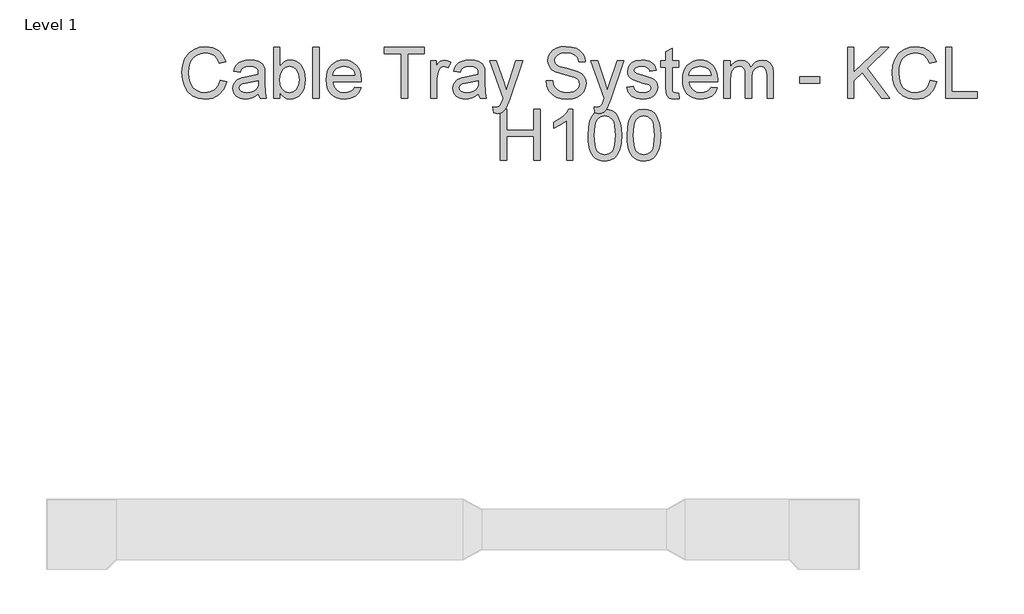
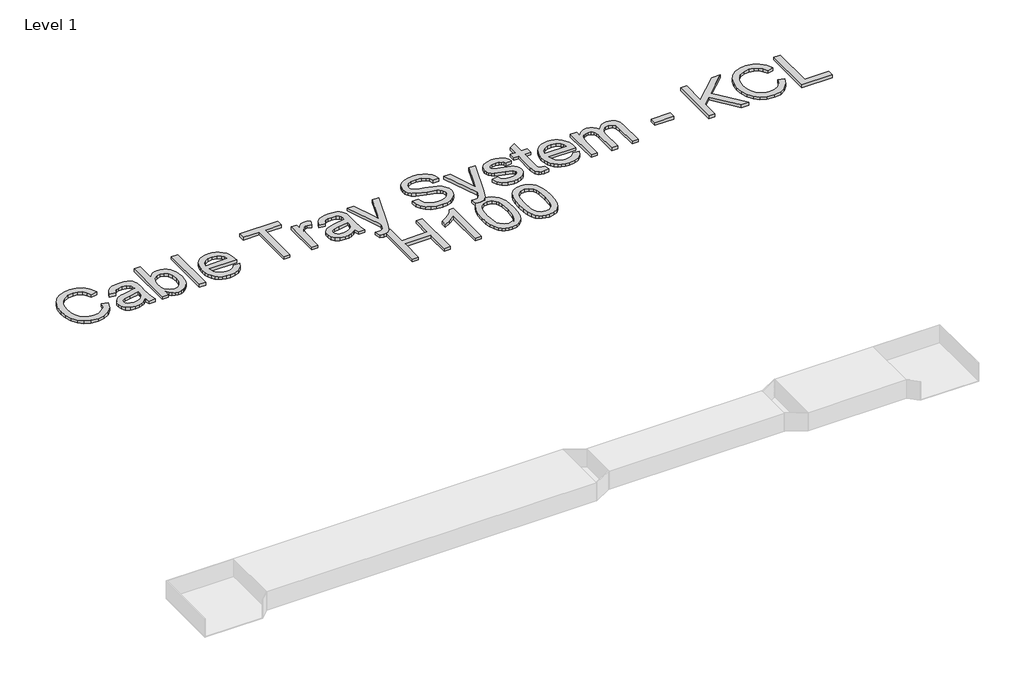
# One storey, part 96 of 106: 1 proxy.
"""IFC4 building model written with IfcOpenShell, lengths in millimetres."""

from ifc_helpers import new_model, si_unit, origin, origin_with_axes, place, context, project, spatial, polyline, outline, extrude, element, save

model = new_model("IFC4")

# Units and contexts
model_context = context("Model", 3, world=origin())
ifc_project = project(units=[si_unit("LENGTHUNIT", "METRE", prefix="MILLI")], contexts=[model_context])

# Site, building, storey
site = spatial("IfcSite", under=ifc_project)
building = spatial("IfcBuilding", under=site)
storey = spatial("IfcBuildingStorey", under=building, Name="Level 1", Elevation=0.0)

# Proxy
placement = place(None, origin())
element("IfcBuildingElementProxy", 1, Name="250mm Arial 3", ObjectType="250mm Arial 3", at=placement, inside=storey, context=model_context, shape_type="SweptSolid", body=[
    extrude(outline(polyline([(157661.590676, 48792.4106539), (157692.9832729, 48784.31725), (157678.4979193, 48747.7359841), (157655.7658777, 48721.01089), (157625.9061224, 48704.6631338), (157590.0376279, 48699.2138818), (157553.6249746, 48703.3372258), (157524.7079169, 48715.7072579), (157502.5430267, 48735.8947824), (157486.3868758, 48763.4706036), (157476.5230398, 48795.8902044), (157473.2350944, 48830.6090677), (157476.9522354, 48867.2286547), (157488.1036584, 48898.8511778), (157506.1068835, 48924.472626), (157530.379431, 48943.0889877), (157559.1661971, 48954.4243517), (157590.7120782, 48958.2028064), (157625.1320374, 48953.3130415), (157653.5892426, 48938.643747), (157675.1946456, 48915.0992993), (157689.0591983, 48883.584075), (157657.6666013, 48876.1038078), (157646.7834256, 48898.9967978), (157631.9148617, 48914.7007605), (157612.8769684, 48923.7828472), (157589.4858049, 48926.8102095), (157562.5231203, 48923.4532863), (157540.3735585, 48913.3825166), (157523.5659499, 48897.6555613), (157512.6291247, 48877.3300811), (157506.6280497, 48854.3527848), (157504.6276913, 48830.6703814), (157506.9959317, 48801.6690174), (157514.1006527, 48776.5917281), (157526.2101017, 48756.3965394), (157543.592526, 48742.0414774), (157564.4315082, 48733.4652284), (157586.9106309, 48730.6064787), (157613.1145589, 48734.4998965), (157634.9498881, 48746.1801498), (157651.4356, 48765.5246114), (157661.590676, 48792.4106539)])), origin_with_axes(), (0.0, 0.0, 1.0), 15.0),
    extrude(outline(polyline([(157849.9462575, 48726.6824041), (157834.947402, 48713.8218627), (157819.5040224, 48705.406562), (157803.2635651, 48700.7620518), (157785.8734767, 48699.2138818), (157759.6388919, 48702.938687), (157740.2867661, 48714.1131026), (157728.3535939, 48731.0816596), (157724.3758698, 48752.1888891), (157725.8780546, 48765.2027147), (157730.3846091, 48777.0209238), (157746.172878, 48795.0471415), (157768.1538272, 48805.3478374), (157795.3157812, 48810.0689897), (157849.7623165, 48820.8601949), (157849.9462575, 48827.8499528), (157847.7849508, 48841.8601254), (157841.3010306, 48851.0265185), (157826.8003486, 48857.8323354), (157806.5974957, 48860.100941), (157787.8968276, 48858.591092), (157774.8370168, 48854.0615449), (157765.9312068, 48845.6845653), (157759.6925413, 48832.6324187), (157728.2999444, 48836.5564933), (157733.7491965, 48853.7243198), (157741.8809214, 48867.2133262), (157753.4538758, 48877.5293505), (157769.2268164, 48885.1782303), (157788.5176285, 48889.914711), (157810.6441977, 48891.4935379), (157831.8663903, 48890.098652), (157848.6893273, 48885.9139943), (157861.373592, 48879.6216794), (157870.1797672, 48871.9038217), (157879.8060128, 48850.5973228), (157881.3388544, 48823.1288005), (157881.3388544, 48784.0719953), (157882.9330097, 48729.5334895), (157889.1870036, 48703.1379564), (157857.7944067, 48703.1379564), (157849.9462575, 48726.6824041)]), holes=[polyline([(157849.9462575, 48789.4675979), (157799.3011695, 48779.8413524), (157772.2924997, 48774.7523181), (157760.0604233, 48766.4749732), (157755.7684667, 48754.3961811), (157758.1060502, 48745.0611754), (157765.1188008, 48737.4122956), (157776.6534342, 48732.3079329), (157792.5566662, 48730.6064787), (157809.4179244, 48732.4842097), (157824.3171452, 48738.1174028), (157836.3959373, 48746.4177403), (157844.7959096, 48756.2969047), (157848.5207148, 48766.4749732), (157849.7623165, 48780.5771164), (157849.9462575, 48789.4675979)])]), origin_with_axes(), (0.0, 0.0, 1.0), 15.0),
    extrude(outline(polyline([(157955.8962721, 48703.1379564), (157924.5036752, 48703.1379564), (157924.5036752, 48954.2787318), (157955.8962721, 48954.2787318), (157955.8962721, 48861.1432733), (157966.2199606, 48874.4215141), (157977.8772213, 48883.9059718), (157990.8680543, 48889.5966464), (158005.1924595, 48891.4935379), (158021.3639388, 48889.7844195), (158036.64637, 48884.6570642), (158050.1660334, 48876.4333687), (158061.0492091, 48865.4352299), (158076.0404004, 48835.5448178), (158081.4666598, 48798.1128248), (158075.8487951, 48756.2049342), (158068.8264644, 48739.2746982), (158058.9952012, 48725.0269351), (158047.1942366, 48713.7337243), (158034.2628013, 48705.6671451), (158020.2008952, 48700.8271976), (158005.0085185, 48699.2138818), (157990.2127645, 48701.2947143), (157977.0954721, 48707.5372119), (157965.6566413, 48717.9413746), (157955.8962721, 48732.5072023), (157955.8962721, 48703.1379564)]), holes=[polyline([(157955.8962721, 48796.6412968), (157958.0422504, 48770.4603615), (157964.4801853, 48752.7407121), (157980.9275762, 48736.140037), (158002.3107172, 48730.6064787), (158020.4289054, 48734.6838375), (158035.910606, 48746.9159138), (158046.5331987, 48767.2260656), (158050.0740629, 48795.5376509), (158046.6788186, 48824.2631033), (158036.4930859, 48844.3433289), (158021.4942304, 48856.161538), (158003.6596178, 48860.100941), (157985.5414295, 48856.0235822), (157970.0597289, 48843.7915059), (157959.4371363, 48823.8492361), (157955.8962721, 48796.6412968)])]), origin_with_axes(), (0.0, 0.0, 1.0), 15.0),
    extrude(outline(polyline([(158116.7833313, 48703.1379564), (158116.7833313, 48954.2787318), (158148.1759282, 48954.2787318), (158148.1759282, 48703.1379564), (158116.7833313, 48703.1379564)])), origin_with_axes(), (0.0, 0.0, 1.0), 15.0),
    extrude(outline(polyline([(158324.3914039, 48758.075001), (158355.1708642, 48754.1509264), (158344.0807549, 48730.9590323), (158326.3840981, 48713.6225933), (158302.4794326, 48702.8160596), (158272.7652973, 48699.2138818), (158253.2867121, 48700.7678), (158235.9311125, 48705.4295547), (158220.6984986, 48713.1991458), (158207.5888705, 48724.0765733), (158197.046752, 48737.759101), (158189.5166675, 48753.9439928), (158184.9986167, 48772.6312485), (158183.4925998, 48793.8208682), (158185.0139451, 48815.7290074), (158189.5779811, 48835.0389801), (158197.1847078, 48851.7507861), (158207.8341251, 48865.8644256), (158220.9092644, 48877.0771622), (158235.7931568, 48885.0862598), (158252.4858023, 48889.8917184), (158270.987201, 48891.4935379), (158288.8927074, 48889.8955505), (158305.0852634, 48885.1015883), (158319.5648688, 48877.1116512), (158332.3315237, 48865.9257393), (158342.7529308, 48851.8427566), (158350.1967931, 48835.1616074), (158354.6631104, 48815.8822916), (158356.1518828, 48794.0048092), (158355.9679419, 48785.5435233), (158214.8851967, 48785.5435233), (158220.3191203, 48762.0450609), (158232.9420713, 48744.7699355), (158251.1598943, 48734.1473429), (158273.3784339, 48730.6064787), (158290.0864079, 48732.2466193), (158304.1578942, 48737.1670409), (158315.5928929, 48745.6743121), (158324.3914039, 48758.075001)]), holes=[polyline([(158214.8851967, 48816.9361202), (158324.7592859, 48816.9361202), (158320.5133146, 48833.5214669), (158312.1899844, 48845.3856612), (158293.8878552, 48856.4221211), (158270.8645736, 48860.100941), (158249.7036947, 48857.1655493), (158232.2063073, 48848.359374), (158220.0432088, 48834.632777), (158214.8851967, 48816.9361202)])]), origin_with_axes(), (0.0, 0.0, 1.0), 15.0),
    extrude(outline(polyline([(158552.3556136, 48703.1379564), (158552.3556136, 48922.8861348), (158469.9500467, 48922.8861348), (158469.9500467, 48954.2787318), (158666.1537775, 48954.2787318), (158666.1537775, 48922.8861348), (158583.7482105, 48922.8861348), (158583.7482105, 48703.1379564), (158552.3556136, 48703.1379564)])), origin_with_axes(), (0.0, 0.0, 1.0), 15.0),
    extrude(outline(polyline([(158697.5463744, 48703.1379564), (158697.5463744, 48887.5694633), (158725.0148967, 48887.5694633), (158725.0148967, 48860.284882), (158735.1623084, 48876.1038078), (158744.5126424, 48885.423485), (158764.1330155, 48891.4935379), (158779.7680003, 48889.0716481), (158795.6482398, 48881.8059787), (158785.1636029, 48853.6630061), (158763.0906832, 48860.100941), (158753.7173565, 48858.5527709), (158745.3403769, 48853.9082608), (158734.0280056, 48836.7404343), (158728.9389713, 48800.0748621), (158728.9389713, 48703.1379564), (158697.5463744, 48703.1379564)])), origin_with_axes(), (0.0, 0.0, 1.0), 15.0),
    extrude(outline(polyline([(158932.9908513, 48726.6824041), (158917.9919958, 48713.8218627), (158902.5486162, 48705.406562), (158886.3081589, 48700.7620518), (158868.9180705, 48699.2138818), (158842.6834857, 48702.938687), (158823.3313599, 48714.1131026), (158811.3981877, 48731.0816596), (158807.4204636, 48752.1888891), (158808.9226484, 48765.2027147), (158813.4292029, 48777.0209238), (158829.2174718, 48795.0471415), (158851.198421, 48805.3478374), (158878.360375, 48810.0689897), (158932.8069103, 48820.8601949), (158932.9908513, 48827.8499528), (158930.8295446, 48841.8601254), (158924.3456244, 48851.0265185), (158909.8449424, 48857.8323354), (158889.6420895, 48860.100941), (158870.9414214, 48858.591092), (158857.8816106, 48854.0615449), (158848.9758006, 48845.6845653), (158842.7371351, 48832.6324187), (158811.3445382, 48836.5564933), (158816.7937903, 48853.7243198), (158824.9255152, 48867.2133262), (158836.4984696, 48877.5293505), (158852.2714102, 48885.1782303), (158871.5622223, 48889.914711), (158893.6887915, 48891.4935379), (158914.9109841, 48890.098652), (158931.7339211, 48885.9139943), (158944.4181858, 48879.6216794), (158953.224361, 48871.9038217), (158962.8506066, 48850.5973228), (158964.3834482, 48823.1288005), (158964.3834482, 48784.0719953), (158965.9776035, 48729.5334895), (158972.2315974, 48703.1379564), (158940.8390005, 48703.1379564), (158932.9908513, 48726.6824041)]), holes=[polyline([(158932.9908513, 48789.4675979), (158882.3457633, 48779.8413524), (158855.3370935, 48774.7523181), (158843.1050171, 48766.4749732), (158838.8130605, 48754.3961811), (158841.150644, 48745.0611754), (158848.1633946, 48737.4122956), (158859.698028, 48732.3079329), (158875.60126, 48730.6064787), (158892.4625182, 48732.4842097), (158907.361739, 48738.1174028), (158919.4405311, 48746.4177403), (158927.8405034, 48756.2969047), (158931.5653086, 48766.4749732), (158932.8069103, 48780.5771164), (158932.9908513, 48789.4675979)])]), origin_with_axes(), (0.0, 0.0, 1.0), 15.0),
    extrude(outline(polyline([(159007.548269, 48632.5046133), (159003.6241944, 48662.7322506), (159019.5657475, 48659.9731356), (159034.4649683, 48663.4373577), (159043.6007045, 48673.0942601), (159052.1846177, 48696.2095122), (159054.6371644, 48703.8124067), (158987.9278959, 48887.5694633), (159020.9759618, 48887.5694633), (159056.4152607, 48785.1143277), (159068.7393075, 48744.1567989), (159081.0633543, 48780.3931754), (159117.4223582, 48887.5694633), (159150.2251694, 48887.5694633), (159086.0297613, 48698.7233725), (159069.3524442, 48657.7658437), (159060.8145162, 48644.6907044), (159051.1422854, 48635.6316103), (159039.9218846, 48630.3433066), (159026.7394464, 48628.5805387), (159007.548269, 48632.5046133)])), origin_with_axes(), (0.0, 0.0, 1.0), 15.0),
    extrude(outline(polyline([(159266.5371936, 48789.4675979), (159297.9297905, 48789.4675979), (159301.5319684, 48772.0468526), (159308.0465454, 48758.0443442), (159318.2092855, 48746.9312422), (159332.7559527, 48738.1787164), (159350.5369158, 48732.4995381), (159370.4025436, 48730.6064787), (159387.8922667, 48732.0396856), (159403.2053548, 48736.3393065), (159415.6137079, 48743.1451234), (159424.3892263, 48752.0969186), (159429.6085522, 48762.3746218), (159431.3483274, 48773.1581628), (159426.1366658, 48792.7478791), (159418.1965461, 48800.4963936), (159404.7995101, 48807.0033064), (159359.0901722, 48818.990128), (159309.8859553, 48834.4718287), (159294.2586348, 48845.0331076), (159283.1838539, 48857.8323354), (159276.5849706, 48872.5936004), (159274.3853428, 48889.0409913), (159277.1061367, 48907.4274268), (159285.2685185, 48924.5722607), (159298.6578903, 48939.1035995), (159317.0596543, 48949.64955), (159339.1479024, 48956.0644923), (159363.5967266, 48958.2028064), (159390.0842303, 48955.9648576), (159413.260796, 48949.2510112), (159432.2986892, 48938.1992229), (159446.3701756, 48922.9474485), (159455.2759855, 48904.4460498), (159458.8168497, 48883.6453887), (159427.4242528, 48883.6453887), (159421.6607682, 48902.3767136), (159409.6432897, 48915.8963769), (159390.8659795, 48924.0817513), (159364.823, 48926.8102095), (159338.1668837, 48924.1124082), (159319.8800829, 48916.0190043), (159309.3034755, 48904.1088247), (159305.7779397, 48889.9606963), (159308.2764716, 48877.8972325), (159315.7720673, 48868.1943449), (159333.4917167, 48859.5184612), (159367.0302919, 48850.6586365), (159422.5804732, 48834.9010243), (159440.4763994, 48823.5120109), (159452.9613946, 48809.455853), (159460.2960419, 48792.8858348), (159462.7409243, 48773.9552405), (159459.9281599, 48754.6031147), (159451.4898667, 48736.4006201), (159437.7709339, 48720.7349785), (159419.1162511, 48708.9934115), (159396.6831136, 48701.6587642), (159371.6288169, 48699.2138818), (159340.8723492, 48701.8503694), (159315.5574694, 48709.7598323), (159295.3929376, 48722.9729273), (159280.0875137, 48741.5203112), (159270.2619988, 48764.1143971), (159266.5371936, 48789.4675979)])), origin_with_axes(), (0.0, 0.0, 1.0), 15.0),
    extrude(outline(polyline([(159505.9057451, 48632.5046133), (159501.9816705, 48662.7322506), (159517.9232236, 48659.9731356), (159532.8224444, 48663.4373577), (159541.9581806, 48673.0942601), (159550.5420939, 48696.2095122), (159552.9946405, 48703.8124067), (159486.285372, 48887.5694633), (159519.3334379, 48887.5694633), (159554.7727368, 48785.1143277), (159567.0967836, 48744.1567989), (159579.4208305, 48780.3931754), (159615.7798343, 48887.5694633), (159648.5826456, 48887.5694633), (159584.3872374, 48698.7233725), (159567.7099203, 48657.7658437), (159559.1719923, 48644.6907044), (159549.4997615, 48635.6316103), (159538.2793607, 48630.3433066), (159525.0969225, 48628.5805387), (159505.9057451, 48632.5046133)])), origin_with_axes(), (0.0, 0.0, 1.0), 15.0),
    extrude(outline(polyline([(159662.8687297, 48758.075001), (159694.2613266, 48761.9990756), (159699.2124052, 48748.5713828), (159708.7926654, 48738.6998826), (159723.0634212, 48732.6298297), (159742.085986, 48730.6064787), (159760.8786246, 48732.4612171), (159774.0917196, 48738.0254323), (159781.909212, 48746.0881793), (159784.5150428, 48755.4385134), (159781.8938836, 48763.4399468), (159774.0304059, 48769.5406565), (159741.718104, 48778.4924517), (159694.4452676, 48793.851525), (159682.4814386, 48801.5693827), (159673.8132191, 48811.7857723), (159668.547908, 48823.8492361), (159666.7928043, 48837.1083163), (159672.4336616, 48860.4994798), (159687.8233917, 48878.3724134), (159707.78099, 48887.6614338), (159734.7896598, 48891.4935379), (159755.2224389, 48889.9530321), (159772.9880736, 48885.3315145), (159787.2741578, 48878.0811735), (159797.2682853, 48868.6541974), (159803.8901612, 48856.3531432), (159808.0594905, 48840.4805679), (159776.6668936, 48836.5564933), (159772.7044979, 48846.4356577), (159764.8640129, 48853.8776039), (159753.0687964, 48858.5451067), (159737.2422064, 48860.100941), (159719.2159886, 48858.6140846), (159707.1985101, 48854.1535154), (159700.4386785, 48847.7155805), (159698.1854013, 48840.2966269), (159701.9255349, 48831.1608907), (159713.6364451, 48824.2324465), (159740.6757717, 48817.5492569), (159786.7529916, 48802.7726634), (159798.9237543, 48795.7062634), (159808.151461, 48786.0340326), (159813.968595, 48773.7253142), (159815.9076397, 48758.7494513), (159813.6313699, 48743.2677507), (159806.8025603, 48728.7057551), (159795.6817942, 48716.2054314), (159780.5296545, 48706.9087468), (159762.2275252, 48701.137598), (159741.6567904, 48699.2138818), (159710.0036103, 48702.9233586), (159686.9036867, 48714.0517889), (159671.4832998, 48732.4765455), (159662.8687297, 48758.075001)])), origin_with_axes(), (0.0, 0.0, 1.0), 15.0),
    extrude(outline(polyline([(159917.9335797, 48729.3188917), (159921.8576543, 48702.2182514), (159898.3745203, 48699.2138818), (159883.3066869, 48700.5167972), (159872.0709576, 48704.4255434), (159858.9498331, 48718.0984909), (159855.1483859, 48753.7217307), (159855.1483859, 48856.1768664), (159831.6039382, 48856.1768664), (159831.6039382, 48887.5694633), (159855.1483859, 48887.5694633), (159855.1483859, 48932.3897531), (159886.5409828, 48950.8451665), (159886.5409828, 48887.5694633), (159917.9335797, 48887.5694633), (159917.9335797, 48856.1768664), (159886.5409828, 48856.1768664), (159886.5409828, 48754.6414357), (159888.1964518, 48738.4546279), (159893.5613975, 48732.7218002), (159904.2606322, 48730.6064787), (159917.9335797, 48729.3188917)])), origin_with_axes(), (0.0, 0.0, 1.0), 15.0),
    extrude(outline(polyline([(160078.4527569, 48758.075001), (160109.2322172, 48754.1509264), (160098.1421079, 48730.9590323), (160080.4454511, 48713.6225933), (160056.5407856, 48702.8160596), (160026.8266503, 48699.2138818), (160007.3480651, 48700.7678), (159989.9924655, 48705.4295547), (159974.7598516, 48713.1991458), (159961.6502235, 48724.0765733), (159951.108105, 48737.759101), (159943.5780205, 48753.9439928), (159939.0599697, 48772.6312485), (159937.5539528, 48793.8208682), (159939.0752981, 48815.7290074), (159943.6393341, 48835.0389801), (159951.2460608, 48851.7507861), (159961.8954781, 48865.8644256), (159974.9706174, 48877.0771622), (159989.8545098, 48885.0862598), (160006.5471553, 48889.8917184), (160025.048554, 48891.4935379), (160042.9540605, 48889.8955505), (160059.1466164, 48885.1015883), (160073.6262218, 48877.1116512), (160086.3928767, 48865.9257393), (160096.8142838, 48851.8427566), (160104.2581461, 48835.1616074), (160108.7244634, 48815.8822916), (160110.2132359, 48794.0048092), (160110.0292949, 48785.5435233), (159968.9465497, 48785.5435233), (159974.3804733, 48762.0450609), (159987.0034243, 48744.7699355), (160005.2212473, 48734.1473429), (160027.4397869, 48730.6064787), (160044.1477609, 48732.2466193), (160058.2192472, 48737.1670409), (160069.6542459, 48745.6743121), (160078.4527569, 48758.075001)]), holes=[polyline([(159968.9465497, 48816.9361202), (160078.8206389, 48816.9361202), (160074.5746676, 48833.5214669), (160066.2513374, 48845.3856612), (160047.9492082, 48856.4221211), (160024.9259266, 48860.100941), (160003.7650477, 48857.1655493), (159986.2676603, 48848.359374), (159974.1045618, 48834.632777), (159968.9465497, 48816.9361202)])]), origin_with_axes(), (0.0, 0.0, 1.0), 15.0),
    extrude(outline(polyline([(160141.6058328, 48703.1379564), (160141.6058328, 48887.5694633), (160172.9984297, 48887.5694633), (160172.9984297, 48857.2191987), (160182.4407342, 48871.1603935), (160194.5808401, 48882.0818902), (160209.00488, 48889.140626), (160225.2989867, 48891.4935379), (160242.758053, 48889.0946407), (160256.7528973, 48881.8979492), (160267.2068773, 48870.3786442), (160274.043351, 48855.0119067), (160285.4860139, 48870.9726204), (160298.5381605, 48882.3731301), (160313.1997909, 48889.213436), (160329.470905, 48891.4935379), (160353.0690021, 48887.6997549), (160370.5204043, 48876.3184056), (160381.3039453, 48857.0429219), (160384.8984589, 48829.5667354), (160384.8984589, 48703.1379564), (160353.505862, 48703.1379564), (160353.505862, 48816.0777289), (160350.5934629, 48842.2893211), (160340.0475123, 48855.1958477), (160322.1132651, 48860.100941), (160305.106387, 48856.9586156), (160291.2418343, 48847.5316395), (160282.0217918, 48831.1762191), (160278.9484443, 48807.248561), (160278.9484443, 48703.1379564), (160247.5558474, 48703.1379564), (160247.5558474, 48819.5726079), (160245.73943, 48837.3229141), (160240.290178, 48849.9841861), (160230.7022535, 48857.5717523), (160216.4698188, 48860.100941), (160204.3756982, 48858.4148152), (160193.2319394, 48853.3564378), (160184.0348896, 48845.048436), (160177.7808956, 48833.6134374), (160172.9984297, 48796.1507875), (160172.9984297, 48703.1379564), (160141.6058328, 48703.1379564)])), origin_with_axes(), (0.0, 0.0, 1.0), 15.0),
    extrude(outline(polyline([(160514.3929212, 48777.6953741), (160514.3929212, 48809.087971), (160612.4947866, 48809.087971), (160612.4947866, 48777.6953741), (160514.3929212, 48777.6953741)])), origin_with_axes(), (0.0, 0.0, 1.0), 15.0),
    extrude(outline(polyline([(160749.8373981, 48703.1379564), (160749.8373981, 48954.2787318), (160781.2299951, 48954.2787318), (160781.2299951, 48831.3448317), (160909.9886934, 48954.2787318), (160953.8892781, 48954.2787318), (160845.7319715, 48851.0265185), (160957.8133527, 48703.1379564), (160919.4309979, 48703.1379564), (160823.4751108, 48829.8119901), (160781.2299951, 48789.4675979), (160781.2299951, 48703.1379564), (160749.8373981, 48703.1379564)])), origin_with_axes(), (0.0, 0.0, 1.0), 15.0),
    extrude(outline(polyline([(161157.9411581, 48792.4106539), (161189.333755, 48784.31725), (161174.8484015, 48747.7359841), (161152.1163599, 48721.01089), (161122.2566046, 48704.6631338), (161086.3881101, 48699.2138818), (161049.9754567, 48703.3372258), (161021.0583991, 48715.7072579), (160998.8935089, 48735.8947824), (160982.7373579, 48763.4706036), (160972.8735219, 48795.8902044), (160969.5855766, 48830.6090677), (160973.3027176, 48867.2286547), (160984.4541406, 48898.8511778), (161002.4573657, 48924.472626), (161026.7299132, 48943.0889877), (161055.5166793, 48954.4243517), (161087.0625604, 48958.2028064), (161121.4825196, 48953.3130415), (161149.9397247, 48938.643747), (161171.5451277, 48915.0992993), (161185.4096804, 48883.584075), (161154.0170835, 48876.1038078), (161143.1339078, 48898.9967978), (161128.2653438, 48914.7007605), (161109.2274506, 48923.7828472), (161085.8362871, 48926.8102095), (161058.8736025, 48923.4532863), (161036.7240407, 48913.3825166), (161019.916432, 48897.6555613), (161008.9796069, 48877.3300811), (161002.9785319, 48854.3527848), (161000.9781735, 48830.6703814), (161003.3464139, 48801.6690174), (161010.4511349, 48776.5917281), (161022.5605839, 48756.3965394), (161039.9430082, 48742.0414774), (161060.7819903, 48733.4652284), (161083.2611131, 48730.6064787), (161109.465041, 48734.4998965), (161131.3003703, 48746.1801498), (161147.7860822, 48765.5246114), (161157.9411581, 48792.4106539)])), origin_with_axes(), (0.0, 0.0, 1.0), 15.0),
    extrude(outline(polyline([(161232.4985758, 48703.1379564), (161232.4985758, 48954.2787318), (161263.8911727, 48954.2787318), (161263.8911727, 48734.5305533), (161389.4615604, 48734.5305533), (161389.4615604, 48703.1379564), (161232.4985758, 48703.1379564)])), origin_with_axes(), (0.0, 0.0, 1.0), 15.0),
    extrude(outline(polyline([(159040.9029032, 48398.2009118), (159040.9029032, 48649.3416872), (159072.2955001, 48649.3416872), (159072.2955001, 48547.3157472), (159205.714037, 48547.3157472), (159205.714037, 48649.3416872), (159237.106634, 48649.3416872), (159237.106634, 48398.2009118), (159205.714037, 48398.2009118), (159205.714037, 48515.9231502), (159072.2955001, 48515.9231502), (159072.2955001, 48398.2009118), (159040.9029032, 48398.2009118)])), origin_with_axes(), (0.0, 0.0, 1.0), 15.0),
    extrude(outline(polyline([(159397.9936932, 48398.2009118), (159366.6010963, 48398.2009118), (159366.6010963, 48593.9141332), (159336.8639683, 48572.7302617), (159303.8159024, 48556.880679), (159303.8159024, 48586.5564933), (159328.4716603, 48599.9688577), (159349.8318087, 48615.9257393), (159366.6700741, 48632.8942963), (159377.7601835, 48649.3416872), (159397.9936932, 48649.3416872), (159397.9936932, 48398.2009118)])), origin_with_axes(), (0.0, 0.0, 1.0), 15.0),
    extrude(outline(polyline([(159472.5511109, 48521.7479485), (159474.8580376, 48561.9467207), (159481.7788176, 48594.0061037), (159493.2444731, 48618.4166069), (159509.1860262, 48635.6687397), (159529.7184401, 48645.9234503), (159554.9566778, 48649.3416872), (159574.3011394, 48647.3183362), (159591.62225, 48641.2482833), (159606.1076035, 48631.3691189), (159616.944794, 48617.9184334), (159631.6600738, 48580.7623519), (159635.936702, 48555.0489333), (159637.3622447, 48521.7479485), (159635.0783107, 48481.7791026), (159628.2265085, 48449.7963616), (159616.8298309, 48425.3628658), (159600.9112704, 48408.0417552), (159580.3328713, 48397.7180667), (159554.9566778, 48394.2768372), (159537.666224, 48395.7713578), (159522.3378076, 48400.2549196), (159508.9714284, 48407.7275226), (159497.5670866, 48418.1891669), (159486.6225972, 48437.1006007), (159478.8051048, 48460.6642089), (159474.1146094, 48488.8799915), (159472.5511109, 48521.7479485)]), holes=[polyline([(159503.9437078, 48521.8092622), (159507.6225278, 48472.4287685), (159512.2210527, 48455.5387696), (159518.6589876, 48443.848936), (159535.0910501, 48430.2143096), (159554.9566778, 48425.6694341), (159574.8223055, 48430.229638), (159591.254368, 48443.9102497), (159597.6923029, 48455.6192438), (159602.2908278, 48472.5054106), (159605.9696478, 48521.8092622), (159602.4134552, 48570.0784456), (159597.9682144, 48586.912879), (159591.7448773, 48598.8805402), (159575.3434717, 48613.1819527), (159554.5887958, 48617.9490902), (159534.9377659, 48613.7491041), (159519.1494969, 48601.1491458), (159512.4969642, 48588.1199918), (159507.7451551, 48570.5536265), (159503.9437078, 48521.8092622)])]), origin_with_axes(), (0.0, 0.0, 1.0), 15.0),
    extrude(outline(polyline([(159664.830767, 48521.7479485), (159667.1376937, 48561.9467207), (159674.0584737, 48594.0061037), (159685.5241293, 48618.4166069), (159701.4656824, 48635.6687397), (159721.9980962, 48645.9234503), (159747.2363339, 48649.3416872), (159766.5807955, 48647.3183362), (159783.9019061, 48641.2482833), (159798.3872597, 48631.3691189), (159809.2244501, 48617.9184334), (159823.9397299, 48580.7623519), (159828.2163581, 48555.0489333), (159829.6419009, 48521.7479485), (159827.3579668, 48481.7791026), (159820.5061647, 48449.7963616), (159809.109487, 48425.3628658), (159793.1909265, 48408.0417552), (159772.6125274, 48397.7180667), (159747.2363339, 48394.2768372), (159729.9458802, 48395.7713578), (159714.6174637, 48400.2549196), (159701.2510845, 48407.7275226), (159689.8467427, 48418.1891669), (159678.9022533, 48437.1006007), (159671.0847609, 48460.6642089), (159666.3942655, 48488.8799915), (159664.830767, 48521.7479485)]), holes=[polyline([(159696.2233639, 48521.8092622), (159699.9021839, 48472.4287685), (159704.5007088, 48455.5387696), (159710.9386438, 48443.848936), (159727.3707062, 48430.2143096), (159747.2363339, 48425.6694341), (159767.1019617, 48430.229638), (159783.5340241, 48443.9102497), (159789.9719591, 48455.6192438), (159794.570484, 48472.5054106), (159798.2493039, 48521.8092622), (159794.6931113, 48570.0784456), (159790.2478705, 48586.912879), (159784.0245335, 48598.8805402), (159767.6231278, 48613.1819527), (159746.8684519, 48617.9490902), (159727.217422, 48613.7491041), (159711.4291531, 48601.1491458), (159704.7766203, 48588.1199918), (159700.0248112, 48570.5536265), (159696.2233639, 48521.8092622)])]), origin_with_axes(), (0.0, 0.0, 1.0), 15.0),
])

save(model, "model.ifc")
